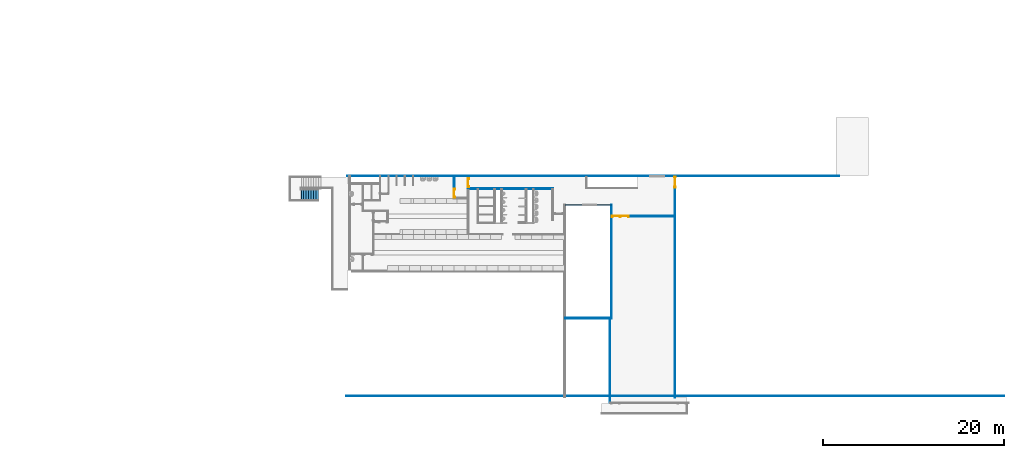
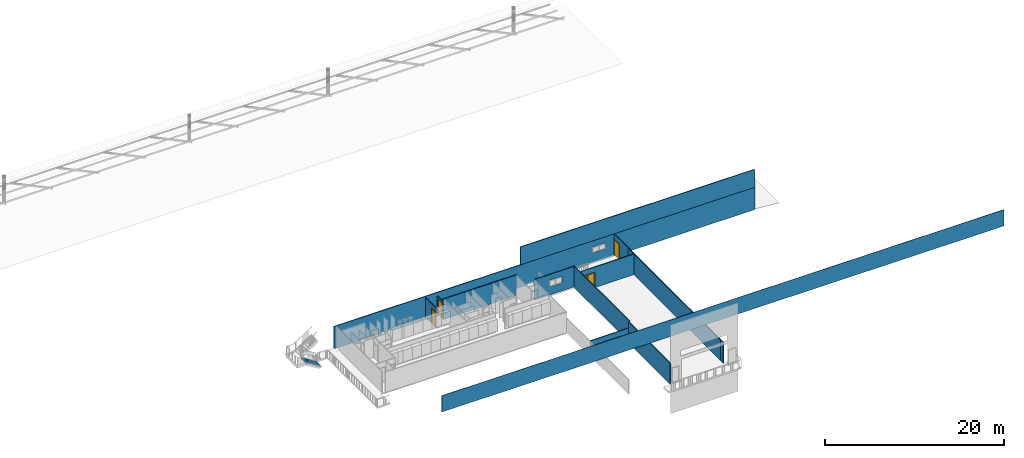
# One storey, part 7 of 14: 13 walls, 5 doors, 1 stair flight, 8 openings, 1 element without a shape of its own.
"""IFC2X3 building model written with IfcOpenShell, lengths in millimetres."""

import ifcopenshell
import ifcopenshell.guid

model = None  # the IFC model being written
_history = None  # IfcOwnerHistory: only IFC2X3 demands one
_inside = {}  # id of a spatial element -> (the spatial element, [elements in it])
_under = {}  # id of a project, library or spatial element -> (it, [spatial elements below it])
_declared = {}  # id of a project -> (the project, [libraries it declares])
_typed = {}  # id of a type object -> (the type object, [elements of that type])
_made_of = {}  # id of a material, layer set ... -> (it, [elements and type objects made of it])


def new_model(schema):
    """Start an empty IFC model of exactly this schema.

    Asked for "IFC4X3", IfcOpenShell would pick the latest addendum, in which some entities
    have other attributes; the version numbers below select the first issue.
    IFC2X3 requires an IfcOwnerHistory on every rooted entity: one is made here for all.
    """
    global model, _history
    if schema == "IFC4X3":
        model = ifcopenshell.file(schema_version=(4, 3, 0, 0))
    else:
        model = ifcopenshell.file(schema=schema)
    _inside.clear()
    _under.clear()
    _declared.clear()
    _typed.clear()
    _made_of.clear()
    _history = None
    if model.schema == "IFC2X3":
        org = make("IfcOrganization", Name="unknown")
        user = make(
            "IfcPersonAndOrganization",
            ThePerson=make("IfcPerson", FamilyName="unknown"),
            TheOrganization=org,
        )
        app = make(
            "IfcApplication",
            ApplicationDeveloper=org,
            Version="unknown",
            ApplicationFullName="unknown",
            ApplicationIdentifier="unknown",
        )
        _history = make(
            "IfcOwnerHistory",
            OwningUser=user,
            OwningApplication=app,
            ChangeAction="ADDED",
            CreationDate=0,
        )
    return model


def make(cls, **values):
    """One entity of the class cls with the attributes given. An attribute that is None is left unset."""
    return model.create_entity(
        cls, **{name: value for name, value in values.items() if value is not None}
    )


def entity(cls, *values):
    """Any entity or typed value of the class cls, its attributes in the order of the schema. None: left unset."""
    e = model.create_entity(cls)
    for i, value in enumerate(values):
        if value is not None:
            e[i] = value
    return e


def rooted(cls, **values):
    """An entity with a GlobalId (a new one), such as an element, a storey or a relation."""
    return make(cls, GlobalId=ifcopenshell.guid.new(), OwnerHistory=_history, **values)


def si_unit(unit_type, name, prefix=None):
    """IfcSIUnit, for example si_unit("LENGTHUNIT", "METRE", prefix="MILLI")."""
    return make("IfcSIUnit", UnitType=unit_type, Prefix=prefix, Name=name)


def converted_unit(unit_type, name, factor, base, dimensions=None, offset=None):
    """IfcConversionBasedUnit, such as the inch: factor (a typed value) times the base unit."""
    return make(
        "IfcConversionBasedUnit"
        if offset is None
        else "IfcConversionBasedUnitWithOffset",
        ConversionOffset=offset,
        Dimensions=None
        if dimensions is None
        else entity("IfcDimensionalExponents", *dimensions),
        UnitType=unit_type,
        Name=name,
        ConversionFactor=make(
            "IfcMeasureWithUnit", ValueComponent=factor, UnitComponent=base
        ),
    )


def derived_unit(unit_type, elements):
    """IfcDerivedUnit: a product of units, each with its exponent."""
    return make(
        "IfcDerivedUnit",
        Elements=[
            make("IfcDerivedUnitElement", Unit=unit, Exponent=power)
            for unit, power in elements
        ],
        UnitType=unit_type,
    )


def assignment(units):
    """IfcUnitAssignment: the units of a project."""
    return None if units is None else make("IfcUnitAssignment", Units=units)


def point(xyz):
    """IfcCartesianPoint."""
    return None if xyz is None else make("IfcCartesianPoint", Coordinates=xyz)


def direction(xyz):
    """IfcDirection."""
    return None if xyz is None else make("IfcDirection", DirectionRatios=xyz)


def frame(location, z_axis=None, x_axis=None):
    """IfcAxis2Placement3D, a coordinate frame: its origin and axes. An axis left out is left unset."""
    return make(
        "IfcAxis2Placement3D",
        Location=point(location),
        Axis=direction(z_axis),
        RefDirection=direction(x_axis),
    )


def frame_2d(location, x_axis=None):
    """IfcAxis2Placement2D, a coordinate frame in the plane: its origin and x axis."""
    return make(
        "IfcAxis2Placement2D", Location=point(location), RefDirection=direction(x_axis)
    )


def origin():
    """The frame at (0, 0, 0) with its axes left unset."""
    return frame((0.0, 0.0, 0.0))


def origin_2d_with_axis():
    """The frame at (0, 0) in the plane with the x axis (1, 0) written out."""
    return frame_2d((0.0, 0.0), x_axis=(1.0, 0.0))


def place(relative_to, where):
    """IfcLocalPlacement: puts the frame where relative to a parent placement (None: the world)."""
    return make(
        "IfcLocalPlacement", PlacementRelTo=relative_to, RelativePlacement=where
    )


def context(
    kind, dimensions, precision=None, world=None, true_north=None, identifier=None
):
    """IfcGeometricRepresentationContext, for example the 3D "Model" context."""
    return make(
        "IfcGeometricRepresentationContext",
        ContextIdentifier=identifier,
        ContextType=kind,
        CoordinateSpaceDimension=dimensions,
        Precision=precision,
        WorldCoordinateSystem=world,
        TrueNorth=true_north,
    )


def subcontext(parent, identifier, kind, view, scale=None):
    """IfcGeometricRepresentationSubContext, for example "Body" below "Model"."""
    return make(
        "IfcGeometricRepresentationSubContext",
        ContextIdentifier=identifier,
        ContextType=kind,
        ParentContext=parent,
        TargetScale=scale,
        TargetView=view,
    )


def project(units=None, contexts=None):
    """IfcProject with its units and contexts."""
    return rooted(
        "IfcProject",
        Name="project",
        RepresentationContexts=contexts,
        UnitsInContext=assignment(units),
    )


def spatial(cls, under=None, at=None, **own):
    """A site, building, storey or space (cls), placed at a placement, below another one or the project."""
    s = rooted(cls, ObjectPlacement=at, **own)
    if under is not None:
        _under.setdefault(under.id(), (under, []))[1].append(s)
    return s


def polyline(points):
    """IfcPolyline through the points."""
    return make("IfcPolyline", Points=[point(p) for p in points])


def profile(cls, at=None, kind="AREA", **sizes):
    """A parametric profile (cls). Its sizes go by their IFC names, for example OverallWidth=200.0."""
    return make(cls, ProfileType=kind, Position=at, **sizes)


def rectangle(**sizes):
    """IfcRectangleProfileDef."""
    return profile("IfcRectangleProfileDef", **sizes)


def outline(outer, holes=None, kind="AREA"):
    """IfcArbitraryClosedProfileDef: a profile drawn as a closed curve; with holes, ...WithVoids."""
    if holes is None:
        return make("IfcArbitraryClosedProfileDef", ProfileType=kind, OuterCurve=outer)
    return make(
        "IfcArbitraryProfileDefWithVoids",
        ProfileType=kind,
        OuterCurve=outer,
        InnerCurves=holes,
    )


def extrude(swept, where, along, depth):
    """IfcExtrudedAreaSolid: the profile swept, set in the frame where, extruded along a direction by depth."""
    return make(
        "IfcExtrudedAreaSolid",
        SweptArea=swept,
        Position=where,
        ExtrudedDirection=direction(along),
        Depth=depth,
    )


def shape(context_of_items, identifier, shape_type, items):
    """IfcShapeRepresentation: the items that make up one representation, for example the "Body"."""
    return make(
        "IfcShapeRepresentation",
        ContextOfItems=context_of_items,
        RepresentationIdentifier=identifier,
        RepresentationType=shape_type,
        Items=items,
    )


def source(mapping_origin, context_of_items, identifier, shape_type, items):
    """IfcRepresentationMap: a shape defined once, which mapped items show again and again."""
    return make(
        "IfcRepresentationMap",
        MappingOrigin=mapping_origin,
        MappedRepresentation=shape(context_of_items, identifier, shape_type, items),
    )


def transform(
    local_origin,
    x_axis=None,
    y_axis=None,
    z_axis=None,
    scale=None,
    scale2=None,
    scale3=None,
    uniform=True,
):
    """IfcCartesianTransformationOperator3D, or its non-uniform kind. x_axis, y_axis, z_axis: its Axis1, 2, 3."""
    if uniform:
        return make(
            "IfcCartesianTransformationOperator3D",
            Axis1=direction(x_axis),
            Axis2=direction(y_axis),
            LocalOrigin=point(local_origin),
            Scale=scale,
            Axis3=direction(z_axis),
        )
    return make(
        "IfcCartesianTransformationOperator3DnonUniform",
        Axis1=direction(x_axis),
        Axis2=direction(y_axis),
        LocalOrigin=point(local_origin),
        Scale=scale,
        Axis3=direction(z_axis),
        Scale2=scale2,
        Scale3=scale3,
    )


def mapped(mapping_source, mapping_target):
    """IfcMappedItem: shows the shape of a source again, moved by a transform."""
    return make(
        "IfcMappedItem", MappingSource=mapping_source, MappingTarget=mapping_target
    )


def material(Name=None, Category=None):
    """IfcMaterial."""
    return make("IfcMaterial", Name=Name, Category=Category)


def material_list(materials):
    """IfcMaterialList."""
    return make("IfcMaterialList", Materials=materials)


def layer(
    of_material, thickness, ventilated=None, Name=None, Category=None, Priority=None
):
    """IfcMaterialLayer: one layer of a wall or slab, of a material (None: an air gap)."""
    return make(
        "IfcMaterialLayer",
        Material=of_material,
        LayerThickness=thickness,
        IsVentilated=ventilated,
        Name=Name,
        Category=Category,
        Priority=Priority,
    )


def layer_set(layers, Name=None):
    """IfcMaterialLayerSet."""
    return make("IfcMaterialLayerSet", MaterialLayers=layers, LayerSetName=Name)


def layer_usage(for_layer_set, set_direction, sense, offset, extent=None):
    """IfcMaterialLayerSetUsage: how a layer set lies in its element."""
    return make(
        "IfcMaterialLayerSetUsage",
        ForLayerSet=for_layer_set,
        LayerSetDirection=set_direction,
        DirectionSense=sense,
        OffsetFromReferenceLine=offset,
        ReferenceExtent=extent,
    )


def made_of(thing, what):
    """Note that an element or type object is made of a material, layer set ...; save() writes the relation."""
    if what is not None:
        _made_of.setdefault(what.id(), (what, []))[1].append(thing)
    return thing


def type_object(cls, material=None, **own):
    """A type object (cls), such as IfcWallType, which elements share."""
    return made_of(rooted(cls, **own), material)


def type_shapes(of_type, sources):
    """Give a type object the sources (RepresentationMaps) that its elements show as mapped items."""
    of_type.RepresentationMaps = sources


def element(
    cls,
    number,
    at=None,
    inside=None,
    cuts=None,
    type_object=None,
    material=None,
    context=None,
    identifier="Body",
    shape_type=None,
    held_by="IfcProductDefinitionShape",
    body=None,
    shapes=None,
    **own,
):
    """One element of the class cls, such as IfcWall. Its Tag is "e" and its number.

    at: its placement. inside: the storey or other place that contains it. cuts: it is an
    opening in that element (IfcRelVoidsElement). A single representation is given by context,
    identifier, shape_type and body (its items); several are given by shapes. held_by: the class
    of the entity that holds the representations. save() writes the other relations.
    """
    e = rooted(cls, Tag="e%d" % number, ObjectPlacement=at, **own)
    if body is not None:
        shapes = [shape(context, identifier, shape_type, body)]
    if shapes is not None:
        e.Representation = make(held_by, Representations=shapes)
    if inside is not None:
        _inside.setdefault(inside.id(), (inside, []))[1].append(e)
    if cuts is not None:
        rooted(
            "IfcRelVoidsElement", RelatingBuildingElement=cuts, RelatedOpeningElement=e
        )
    if type_object is not None:
        _typed.setdefault(type_object.id(), (type_object, []))[1].append(e)
    return made_of(e, material)


def fill(opening, filler):
    """IfcRelFillsElement: the door or window that sits in an opening."""
    return rooted(
        "IfcRelFillsElement",
        RelatingOpeningElement=opening,
        RelatedBuildingElement=filler,
    )


def aggregate(whole, parts):
    """IfcRelAggregates: a whole, such as a stair, and the parts it consists of."""
    return rooted("IfcRelAggregates", RelatingObject=whole, RelatedObjects=parts)


def save(model, path):
    """Write the relations noted so far, then the file.

    IfcRelAggregates (storeys below a building ...), IfcRelContainedInSpatialStructure (elements
    in a storey), IfcRelDefinesByType, IfcRelAssociatesMaterial and IfcRelDeclares: one each for
    every whole, place, type object, material and project.
    """
    for whole, parts in _under.values():
        aggregate(whole, parts)
    for where, things in _inside.values():
        rooted(
            "IfcRelContainedInSpatialStructure",
            RelatedElements=things,
            RelatingStructure=where,
        )
    for kind, things in _typed.values():
        rooted("IfcRelDefinesByType", RelatedObjects=things, RelatingType=kind)
    for what, things in _made_of.values():
        rooted("IfcRelAssociatesMaterial", RelatedObjects=things, RelatingMaterial=what)
    for by, libraries in _declared.values():
        rooted("IfcRelDeclares", RelatingContext=by, RelatedDefinitions=libraries)
    model.write(path)


model = new_model("IFC2X3")

# Units and contexts
model_context = context("Model", 3, precision=0.01, world=origin(), true_north=direction((4.05803320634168e-15, -1.0)))
body_context = subcontext(model_context, "Body", "Model", "MODEL_VIEW")
ifc_project = project(units=[si_unit("LENGTHUNIT", "METRE", prefix="MILLI"), si_unit("AREAUNIT", "SQUARE_METRE"), si_unit("VOLUMEUNIT", "CUBIC_METRE"), converted_unit("PLANEANGLEUNIT", "DEGREE", entity("IfcRatioMeasure", 0.0174532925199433), si_unit("PLANEANGLEUNIT", "RADIAN"), dimensions=[0, 0, 0, 0, 0, 0, 0]), si_unit("MASSUNIT", "GRAM", prefix="KILO"), derived_unit("MASSDENSITYUNIT", [(si_unit("MASSUNIT", "GRAM", prefix="KILO"), 1), (si_unit("LENGTHUNIT", "METRE"), -3)]), si_unit("TIMEUNIT", "SECOND"), si_unit("FREQUENCYUNIT", "HERTZ"), si_unit("THERMODYNAMICTEMPERATUREUNIT", "DEGREE_CELSIUS"), derived_unit("THERMALTRANSMITTANCEUNIT", [(si_unit("MASSUNIT", "GRAM", prefix="KILO"), 1), (si_unit("THERMODYNAMICTEMPERATUREUNIT", "KELVIN"), -1), (si_unit("TIMEUNIT", "SECOND"), -3)]), derived_unit("VOLUMETRICFLOWRATEUNIT", [(si_unit("LENGTHUNIT", "METRE"), 3), (si_unit("TIMEUNIT", "SECOND"), -1)]), si_unit("ELECTRICCURRENTUNIT", "AMPERE"), si_unit("ELECTRICVOLTAGEUNIT", "VOLT"), si_unit("POWERUNIT", "WATT"), si_unit("FORCEUNIT", "NEWTON", prefix="KILO"), si_unit("ILLUMINANCEUNIT", "LUX"), si_unit("LUMINOUSFLUXUNIT", "LUMEN"), si_unit("LUMINOUSINTENSITYUNIT", "CANDELA"), derived_unit("USERDEFINED", [(si_unit("MASSUNIT", "GRAM", prefix="KILO"), -1), (si_unit("LENGTHUNIT", "METRE"), -2), (si_unit("TIMEUNIT", "SECOND"), 3), (si_unit("LUMINOUSFLUXUNIT", "LUMEN"), 1)]), derived_unit("LINEARVELOCITYUNIT", [(si_unit("LENGTHUNIT", "METRE"), 1), (si_unit("TIMEUNIT", "SECOND"), -1)]), si_unit("PRESSUREUNIT", "PASCAL"), derived_unit("USERDEFINED", [(si_unit("LENGTHUNIT", "METRE"), -2), (si_unit("MASSUNIT", "GRAM", prefix="KILO"), 1), (si_unit("TIMEUNIT", "SECOND"), -2)])], contexts=[model_context])

# Site, building, storey
site_placement = place(None, frame((927466.849349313, 583801.882853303, 0.0), z_axis=(0.0, 0.0, 1.0), x_axis=(-1.0, 0.0, 0.0)))
site = spatial("IfcSite", under=ifc_project, at=site_placement, Name="Surface", CompositionType="ELEMENT")
building_placement = place(site_placement, origin())
building = spatial("IfcBuilding", under=site, at=building_placement, CompositionType="ELEMENT")
storey_placement = place(building_placement, frame((0.0, 0.0, 48170.0)))
storey = spatial("IfcBuildingStorey", under=building, at=storey_placement, Name="First floor", CompositionType="ELEMENT", Elevation=48170.0)

# Wall, openings
ifc_material_1 = material(Name="Isopenal")
ifc_layer_1 = layer(ifc_material_1, 100.0)
ifc_layer_set_1 = layer_set([ifc_layer_1], Name="Basic Wall:Isopanel")
ifc_layer_usage_1 = layer_usage(ifc_layer_set_1, "AXIS2", "POSITIVE", -50.0)
wall_type_1 = type_object("IfcWallType", Name="Basic Wall:Isopanel", PredefinedType="STANDARD", material=ifc_layer_set_1)
wall_1_placement = place(storey_placement, frame((-80897.9372768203, 11958.2777512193, -200.0), z_axis=(0.0, 0.0, 1.0), x_axis=(-1.0, 0.0, 0.0)))
wall_1 = element("IfcWallStandardCase", 1, at=wall_1_placement, inside=storey, type_object=wall_type_1, material=ifc_layer_usage_1, Name="Basic Wall:Isopanel", ObjectType="Basic Wall:Isopanel", context=body_context, shape_type="SweptSolid", body=[
    extrude(rectangle(XDim=54350.0, YDim=99.9999999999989, at=frame_2d((27175.0, 5.22248910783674e-13), x_axis=(-1.0, 0.0))), origin(), (0.0, 0.0, 1.0), 3057.10660368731),
])
opening_1_placement = place(wall_1_placement, origin())
element("IfcOpeningElement", 2, at=opening_1_placement, cuts=wall_1, Name="Basic Wall:Isopanel", ObjectType="Opening", context=body_context, shape_type="SweptSolid", body=[
    extrude(rectangle(XDim=770.489127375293, YDim=1699.99999999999, at=frame_2d((1.73372427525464e-11, 0.0), x_axis=(0.0, 1.0))), frame((34200.0, -202.400000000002, 1814.75543631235), z_axis=(0.0, 1.0, 0.0), x_axis=(-1.0, 0.0, 0.0)), (0.0, 0.0, 1.0), 404.800000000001),
])
opening_2_placement = place(wall_1_placement, origin())
element("IfcOpeningElement", 3, at=opening_2_placement, cuts=wall_1, Name="Basic Wall:Isopanel", ObjectType="Opening", context=body_context, shape_type="SweptSolid", body=[
    extrude(rectangle(XDim=3000.0, YDim=99.9999999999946, at=frame_2d((8.66506866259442e-12, 4.32009983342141e-12), x_axis=(0.0, 1.0))), frame((54400.0, -3050.0, -2300.0), z_axis=(0.0, 1.0, 0.0), x_axis=(-1.0, 0.0, 0.0)), (0.0, 0.0, 1.0), 3000.0),
])

# Walls
ifc_layer_usage_2 = layer_usage(ifc_layer_set_1, "AXIS2", "NEGATIVE", 50.0)
wall_2_placement = place(storey_placement, frame((-110127.93727682, 27658.4151802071, -500.0)))
element("IfcWallStandardCase", 4, at=wall_2_placement, inside=storey, type_object=wall_type_1, material=ifc_layer_usage_2, Name="Basic Wall:Isopanel", ObjectType="Basic Wall:Isopanel", context=body_context, shape_type="SweptSolid", body=[
    extrude(rectangle(XDim=5179.99999999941, YDim=100.000000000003, at=frame_2d((2589.99999999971, 0.0), x_axis=(-1.0, 0.0))), origin(), (0.0, 0.0, 1.0), 2499.99999999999),
])
ifc_layer_usage_3 = layer_usage(ifc_layer_set_1, "AXIS2", "NEGATIVE", 50.0)
wall_3_placement = place(storey_placement, frame((-110077.93727682, 27608.4151802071, 0.0), z_axis=(0.0, 0.0, 1.0), x_axis=(0.0, -1.0, 0.0)))
element("IfcWallStandardCase", 5, at=wall_3_placement, inside=storey, type_object=wall_type_1, material=ifc_layer_usage_3, Name="Basic Wall:Isopanel", ObjectType="Basic Wall:Isopanel", context=body_context, shape_type="SweptSolid", body=[
    extrude(rectangle(XDim=12500.9448535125, YDim=100.000000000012, at=frame_2d((6250.47242675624, -4.04654088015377e-12), x_axis=(-1.0, 0.0))), origin(), (0.0, 0.0, 1.0), 2857.10660368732),
])

# Wall, opening
ifc_layer_usage_4 = layer_usage(ifc_layer_set_1, "AXIS2", "NEGATIVE", 50.0)
wall_4_placement = place(storey_placement, frame((-110027.93727682, 15157.4703266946, 0.0)))
wall_4 = element("IfcWallStandardCase", 6, at=wall_4_placement, inside=storey, type_object=wall_type_1, material=ifc_layer_usage_4, Name="Basic Wall:Isopanel", ObjectType="Basic Wall:Isopanel", context=body_context, shape_type="SweptSolid", body=[
    extrude(rectangle(XDim=5079.99999999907, YDim=99.9999999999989, at=frame_2d((2539.99999999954, 1.91846538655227e-13), x_axis=(-1.0, 0.0))), origin(), (0.0, 0.0, 1.0), 2800.0),
])
opening_3_placement = place(wall_4_placement, origin())
element("IfcOpeningElement", 7, at=opening_3_placement, cuts=wall_4, Name="Basic Wall:Isopanel", ObjectType="Opening", context=body_context, shape_type="SweptSolid", body=[
    extrude(rectangle(XDim=899.999999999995, YDim=1620.0, at=frame_2d((4.32009983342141e-12, 8.69704308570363e-12), x_axis=(1.0, 0.0))), frame((2370.0, -202.400000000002, 1550.0), z_axis=(0.0, 1.0, 0.0), x_axis=(0.0, 0.0, 1.0)), (0.0, 0.0, 1.0), 404.799999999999),
])

# Walls
ifc_layer_usage_5 = layer_usage(ifc_layer_set_1, "AXIS2", "POSITIVE", -50.0)
wall_5_placement = place(storey_placement, frame((-104947.937276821, 11958.2777512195, 2857.10660368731), z_axis=(0.0, 0.0, 1.0), x_axis=(-1.0, 0.0, 0.0)))
element("IfcWallStandardCase", 8, at=wall_5_placement, inside=storey, type_object=wall_type_1, material=ifc_layer_usage_5, Name="Basic Wall:Isopanel", ObjectType="Basic Wall:Isopanel", context=body_context, shape_type="SweptSolid", body=[
    extrude(rectangle(XDim=30299.9999999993, YDim=99.9999999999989, at=frame_2d((15149.9999999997, 5.96855898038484e-13), x_axis=(-1.0, 0.0))), origin(), (0.0, 0.0, 1.0), 2442.89339631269),
])
ifc_material_2 = material(Name="Cladding(2)")
ifc_layer_2 = layer(ifc_material_2, 38.0)
ifc_layer_set_2 = layer_set([ifc_layer_2], Name="Basic Wall:Cladding 3")
ifc_layer_usage_6 = layer_usage(ifc_layer_set_2, "AXIS2", "POSITIVE", -19.0)
wall_type_2 = type_object("IfcWallType", Name="Basic Wall:Cladding 3", PredefinedType="NOTDEFINED")
wall_6_placement = place(storey_placement, frame((-80800.5917798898, 36259.2777512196, 5919.43449238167), z_axis=(0.0, 0.0, 1.0), x_axis=(-1.0, 0.0, 0.0)))
element("IfcWallStandardCase", 9, at=wall_6_placement, inside=storey, type_object=wall_type_2, material=ifc_layer_usage_6, Name="Basic Wall:Cladding 3", ObjectType="Basic Wall:Cladding 3", context=body_context, shape_type="SweptSolid", body=[
    extrude(rectangle(XDim=38.0, YDim=72638.0984678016, at=frame_2d((0.0, 7.27595761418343e-12), x_axis=(1.0, 0.0))), frame((36319.0492339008, 0.0, 0.0), z_axis=(0.0, 0.0, 1.0), x_axis=(0.0, 1.0, 0.0)), (0.0, 0.0, 1.0), 2240.56550761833),
])
ifc_material_3 = material(Name="Partition")
ifc_layer_3 = layer(ifc_material_3, 100.0)
ifc_layer_set_3 = layer_set([ifc_layer_3], Name="Basic Wall:wall 90 Partition")
ifc_layer_usage_7 = layer_usage(ifc_layer_set_3, "AXIS2", "POSITIVE", -50.0)
wall_type_3 = type_object("IfcWallType", Name="Basic Wall:wall 90 Partition", PredefinedType="STANDARD", material=ifc_layer_set_3)
wall_7_placement = place(storey_placement, frame((-117091.96508372, 35869.2777512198, 0.0), z_axis=(0.0, 0.0, 1.0), x_axis=(0.0, -1.0, 0.0)))
element("IfcWallStandardCase", 10, at=wall_7_placement, inside=storey, type_object=wall_type_3, material=ifc_layer_usage_7, Name="Basic Wall:wall 90 Partition", ObjectType="Basic Wall:wall 90 Partition", context=body_context, shape_type="SweptSolid", body=[
    extrude(rectangle(XDim=20750.0, YDim=100.000000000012, at=frame_2d((10375.0, -2.37676545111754e-12), x_axis=(-1.0, 0.0))), origin(), (0.0, 0.0, 1.0), 2800.0),
])

# Wall, opening, door
ifc_layer_usage_8 = layer_usage(ifc_layer_set_3, "AXIS2", "POSITIVE", -50.0)
wall_8_placement = place(storey_placement, frame((-92724.9288686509, 12008.2777512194, 0.0), z_axis=(0.0, 0.0, 1.0), x_axis=(0.0, 1.0, 0.0)))
wall_8 = element("IfcWallStandardCase", 11, at=wall_8_placement, inside=storey, type_object=wall_type_3, material=ifc_layer_usage_8, Name="Basic Wall:wall 90 Partition", ObjectType="Basic Wall:wall 90 Partition", context=body_context, shape_type="SweptSolid", body=[
    extrude(rectangle(XDim=2360.99849805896, YDim=100.000000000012, at=frame_2d((1180.49924902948, 3.81561449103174e-12), x_axis=(-1.0, 0.0))), origin(), (0.0, 0.0, 1.0), 2657.10660368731),
])
opening_4_placement = place(wall_8_placement, frame((2260.99849805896, 50.0, 0.0)))
opening_4 = element("IfcOpeningElement", 12, at=opening_4_placement, cuts=wall_8, Name="M_Single-Flush:0813 x 2030mm:1", ObjectType="Opening", context=body_context, shape_type="SweptSolid", body=[
    extrude(rectangle(XDim=813.0, YDim=2030.0, at=frame_2d((1015.0, 406.5), x_axis=(0.0, -1.0))), frame((0.0, 0.0, 0.0), z_axis=(0.0, -1.0, 0.0), x_axis=(0.0, 0.0, 1.0)), (0.0, 0.0, 1.0), 100.0),
])
ifc_material_4 = material(Name="Door - Frame")
ifc_material_5 = material(Name="Door - Panel")
ifc_material_list_1 = material_list([ifc_material_4, ifc_material_5])
ifc_material_list_2 = material_list([ifc_material_4, ifc_material_5])
door_style_1 = type_object("IfcDoorStyle", Name="0813 x 2030mm", ConstructionType="NOTDEFINED", OperationType="SINGLE_SWING_LEFT", ParameterTakesPrecedence=False, Sizeable=False, material=ifc_material_list_2)
shared_shape_1 = source(origin(), body_context, "Body", "SweptSolid", [
    extrude(outline(polyline([(-482.5, -1072.0), (482.5, -1072.0), (482.5, 1034.0), (406.5, 1034.0), (406.5, -996.0), (-406.5, -996.0), (-406.5, 1034.0), (-482.5, 1034.0), (-482.5, -1072.0)])), frame((406.5, 125.0, 1034.0), z_axis=(0.0, -1.0, 0.0), x_axis=(-1.0, 0.0, 0.0)), (0.0, 0.0, 1.0), 24.9999999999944),
    extrude(outline(polyline([(-1072.0, -482.499999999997), (1034.0, -482.499999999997), (1034.0, -406.500000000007), (-996.0, -406.500000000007), (-996.0, 406.500000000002), (1034.0, 406.500000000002), (1034.0, 482.500000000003), (-1072.0, 482.500000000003), (-1072.0, -482.499999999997)])), frame((406.499999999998, 0.0, 1034.0), z_axis=(0.0, -1.0, 0.0), x_axis=(0.0, 0.0, -1.0)), (0.0, 0.0, 1.0), 25.0000000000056),
    extrude(rectangle(XDim=813.0, YDim=51.0, at=origin_2d_with_axis()), frame((406.500000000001, 74.4999999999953, 0.0)), (0.0, 0.0, 1.0), 2030.0),
])
type_shapes(door_style_1, [shared_shape_1])
door_1_placement = place(opening_4_placement, frame((0.0, 0.0, 0.0), z_axis=(0.0, 0.0, 1.0), x_axis=(-1.0, 0.0, 0.0)))
door_1 = element("IfcDoor", 13, at=door_1_placement, inside=storey, type_object=door_style_1, material=ifc_material_list_1, Name="M_Single-Flush:0813 x 2030mm", ObjectType="0813 x 2030mm", OverallHeight=2030.0, OverallWidth=812.999999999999, context=body_context, shape_type="MappedRepresentation", body=[
    mapped(shared_shape_1, transform((0.0, 0.0, 0.0), scale=1.0)),
])
fill(opening_4, door_1)

# Wall
ifc_layer_usage_9 = layer_usage(ifc_layer_set_3, "AXIS2", "POSITIVE", -50.0)
wall_9_placement = place(storey_placement, frame((-94214.6956533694, 13369.2679026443, 0.0), z_axis=(0.0, 0.0, 1.0), x_axis=(-1.0, 0.0, 0.0)))
element("IfcWallStandardCase", 14, at=wall_9_placement, inside=storey, type_object=wall_type_3, material=ifc_layer_usage_9, Name="Basic Wall:wall 90 Partition", ObjectType="Basic Wall:wall 90 Partition", context=body_context, shape_type="SweptSolid", body=[
    extrude(rectangle(XDim=9433.10050764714, YDim=99.9999999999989, at=frame_2d((4716.55025382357, 5.00932628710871e-13), x_axis=(-1.0, 0.0))), origin(), (0.0, 0.0, 1.0), 2800.0),
])

# Wall, opening, door
ifc_layer_usage_10 = layer_usage(ifc_layer_set_3, "AXIS2", "NEGATIVE", 50.0)
wall_10_placement = place(storey_placement, frame((-117091.965083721, 12008.2777512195, 0.0), z_axis=(0.0, 0.0, 1.0), x_axis=(0.0, 1.0, 0.0)))
wall_10 = element("IfcWallStandardCase", 15, at=wall_10_placement, inside=storey, type_object=wall_type_3, material=ifc_layer_usage_10, Name="Basic Wall:wall 90 Partition", ObjectType="Basic Wall:wall 90 Partition", context=body_context, shape_type="SweptSolid", body=[
    extrude(rectangle(XDim=24447.6921507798, YDim=100.000000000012, at=frame_2d((12223.8460753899, 2.45137243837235e-12), x_axis=(-1.0, 0.0))), origin(), (0.0, 0.0, 1.0), 2857.1066036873),
])
opening_5_placement = place(wall_10_placement, frame((100.0, -50.0, 0.0)))
opening_5 = element("IfcOpeningElement", 16, at=opening_5_placement, cuts=wall_10, Name="M_Single-Flush:1050 x 2134mm:1", ObjectType="Opening", context=body_context, shape_type="SweptSolid", body=[
    extrude(rectangle(XDim=1050.0, YDim=2134.0, at=frame_2d((1067.0, 525.0), x_axis=(0.0, -1.0))), frame((0.0, 0.0, 0.0), z_axis=(0.0, 1.0, 0.0), x_axis=(0.0, 0.0, 1.0)), (0.0, 0.0, 1.0), 100.0),
])
ifc_material_list_3 = material_list([ifc_material_4, ifc_material_5])
ifc_material_list_4 = material_list([ifc_material_4, ifc_material_5])
door_style_2 = type_object("IfcDoorStyle", Name="1050 x 2134mm", ConstructionType="NOTDEFINED", OperationType="SINGLE_SWING_LEFT", ParameterTakesPrecedence=False, Sizeable=False, material=ifc_material_list_4)
shared_shape_2 = source(origin(), body_context, "Body", "SweptSolid", [
    extrude(outline(polyline([(-601.0, -1124.0), (601.0, -1124.0), (601.0, 1086.0), (525.0, 1086.0), (525.0, -1048.0), (-525.0, -1048.0), (-525.0, 1086.0), (-601.0, 1086.0), (-601.0, -1124.0)])), frame((525.0, 125.0, 1086.0), z_axis=(0.0, -1.0, 0.0), x_axis=(-1.0, 0.0, 0.0)), (0.0, 0.0, 1.0), 24.9999999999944),
    extrude(outline(polyline([(-1124.0, -601.0), (1086.0, -601.0), (1086.0, -525.0), (-1048.0, -525.0), (-1048.0, 525.0), (1086.0, 525.0), (1086.0, 601.0), (-1124.0, 601.0), (-1124.0, -601.0)])), frame((525.0, 0.0, 1086.0), z_axis=(0.0, -1.0, 0.0), x_axis=(0.0, 0.0, -1.0)), (0.0, 0.0, 1.0), 25.0000000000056),
    extrude(rectangle(XDim=1050.0, YDim=51.0, at=origin_2d_with_axis()), frame((525.0, 74.4999999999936, 0.0)), (0.0, 0.0, 1.0), 2134.0),
])
type_shapes(door_style_2, [shared_shape_2])
door_2_placement = place(opening_5_placement, origin())
door_2 = element("IfcDoor", 17, at=door_2_placement, inside=storey, type_object=door_style_2, material=ifc_material_list_3, Name="M_Single-Flush:1050 x 2134mm", ObjectType="1050 x 2134mm", OverallHeight=2134.0, OverallWidth=1050.0, context=body_context, shape_type="MappedRepresentation", body=[
    mapped(shared_shape_2, transform((0.0, 0.0, 0.0), scale=1.0)),
])
fill(opening_5, door_2)

# Wall
ifc_layer_usage_11 = layer_usage(ifc_layer_set_3, "AXIS2", "NEGATIVE", 50.0)
wall_11_placement = place(storey_placement, frame((-109917.871944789, 37027.0854127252, 0.0), z_axis=(0.0, 0.0, 1.0), x_axis=(0.0, -1.0, 0.0)))
element("IfcWallStandardCase", 18, at=wall_11_placement, inside=storey, type_object=wall_type_3, material=ifc_layer_usage_11, Name="Basic Wall:wall 90 Partition", ObjectType="Basic Wall:wall 90 Partition", context=body_context, shape_type="SweptSolid", body=[
    extrude(rectangle(XDim=9318.67023251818, YDim=100.000000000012, at=frame_2d((4659.33511625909, 5.48894263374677e-12), x_axis=(-1.0, 0.0))), origin(), (0.0, 0.0, 1.0), 2859.35796848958),
])

# Wall, opening, door
ifc_layer_usage_12 = layer_usage(ifc_layer_set_3, "AXIS2", "POSITIVE", -50.0)
wall_12_placement = place(storey_placement, frame((-94264.6956533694, 12008.2777512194, 0.0), z_axis=(0.0, 0.0, 1.0), x_axis=(0.0, 1.0, 0.0)))
wall_12 = element("IfcWallStandardCase", 19, at=wall_12_placement, inside=storey, type_object=wall_type_3, material=ifc_layer_usage_12, Name="Basic Wall:wall 90 Partition", ObjectType="Basic Wall:wall 90 Partition", context=body_context, shape_type="SweptSolid", body=[
    extrude(rectangle(XDim=1310.99015142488, YDim=100.000000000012, at=frame_2d((655.495075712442, 2.1174173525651e-12), x_axis=(-1.0, 0.0))), origin(), (0.0, 0.0, 1.0), 2357.10660368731),
])
opening_6_placement = place(wall_12_placement, frame((1092.49507571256, 50.0, 0.0)))
opening_6 = element("IfcOpeningElement", 20, at=opening_6_placement, cuts=wall_12, Name="M_Single-Flush:813 x 2030mm:1", ObjectType="Opening", context=body_context, shape_type="SweptSolid", body=[
    extrude(rectangle(XDim=813.0, YDim=2030.0, at=frame_2d((1015.0, 406.5), x_axis=(0.0, 1.0))), frame((0.0, 0.0, 0.0), z_axis=(0.0, -1.0, 0.0), x_axis=(0.0, 0.0, 1.0)), (0.0, 0.0, 1.0), 100.0),
])
ifc_material_list_5 = material_list([ifc_material_4, ifc_material_5])
ifc_material_list_6 = material_list([ifc_material_4, ifc_material_5])
door_style_3 = type_object("IfcDoorStyle", Name="813 x 2030mm", ConstructionType="NOTDEFINED", OperationType="SINGLE_SWING_RIGHT", ParameterTakesPrecedence=False, Sizeable=False, material=ifc_material_list_6)
shared_shape_3 = source(origin(), body_context, "Body", "SweptSolid", [
    extrude(outline(polyline([(-482.5, -1072.0), (482.5, -1072.0), (482.5, 1034.0), (406.5, 1034.0), (406.5, -996.0), (-406.5, -996.0), (-406.5, 1034.0), (-482.5, 1034.0), (-482.5, -1072.0)])), frame((406.500000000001, 100.0, 1034.0), z_axis=(0.0, 1.0, 0.0), x_axis=(1.0, 0.0, 0.0)), (0.0, 0.0, 1.0), 24.9999999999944),
    extrude(outline(polyline([(-1072.0, -482.499999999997), (1034.0, -482.499999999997), (1034.0, -406.500000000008), (-996.0, -406.500000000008), (-996.0, 406.500000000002), (1034.0, 406.500000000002), (1034.0, 482.500000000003), (-1072.0, 482.500000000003), (-1072.0, -482.499999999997)])), frame((406.500000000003, -25.0, 1034.0), z_axis=(0.0, 1.0, 0.0), x_axis=(0.0, 0.0, -1.0)), (0.0, 0.0, 1.0), 25.0000000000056),
    extrude(rectangle(XDim=51.0, YDim=813.0, at=origin_2d_with_axis()), frame((406.500000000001, 74.5000000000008, 0.0), z_axis=(0.0, 0.0, 1.0), x_axis=(0.0, 1.0, 0.0)), (0.0, 0.0, 1.0), 2030.0),
])
type_shapes(door_style_3, [shared_shape_3])
door_3_placement = place(opening_6_placement, frame((0.0, 0.0, 0.0), z_axis=(0.0, 0.0, 1.0), x_axis=(-1.0, 0.0, 0.0)))
door_3 = element("IfcDoor", 21, at=door_3_placement, inside=storey, type_object=door_style_3, material=ifc_material_list_5, Name="M_Single-Flush:813 x 2030mm", ObjectType="813 x 2030mm", OverallHeight=2030.0, OverallWidth=812.999999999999, context=body_context, shape_type="MappedRepresentation", body=[
    mapped(shared_shape_3, transform((0.0, 0.0, 0.0), scale=1.0)),
])
fill(opening_6, door_3)

# Wall, openings, doors
ifc_layer_usage_13 = layer_usage(ifc_layer_set_3, "AXIS2", "NEGATIVE", 50.0)
wall_13_placement = place(storey_placement, frame((-117041.96508372, 16419.2777512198, 0.0)))
wall_13 = element("IfcWallStandardCase", 22, at=wall_13_placement, inside=storey, type_object=wall_type_3, material=ifc_layer_usage_13, Name="Basic Wall:wall 90 Partition", ObjectType="Basic Wall:wall 90 Partition", context=body_context, shape_type="SweptSolid", body=[
    extrude(rectangle(XDim=6914.02780690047, YDim=99.9999999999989, at=frame_2d((3457.01390345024, -3.76587649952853e-13), x_axis=(-1.0, 0.0))), origin(), (0.0, 0.0, 1.0), 2800.0),
])
opening_7_placement = place(wall_13_placement, frame((6842.8549921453, 50.0, 0.0)))
opening_7 = element("IfcOpeningElement", 23, at=opening_7_placement, cuts=wall_13, Name="M_Single-Flush:813 x 2030mm:1", ObjectType="Opening", context=body_context, shape_type="SweptSolid", body=[
    extrude(rectangle(XDim=813.0, YDim=2030.0, at=frame_2d((1015.0, 406.500000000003), x_axis=(0.0, -1.0))), frame((0.0, 0.0, 0.0), z_axis=(0.0, -1.0, 0.0), x_axis=(0.0, 0.0, 1.0)), (0.0, 0.0, 1.0), 100.0),
])
opening_8_placement = place(wall_13_placement, frame((5942.8549921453, 50.0, 0.0)))
opening_8 = element("IfcOpeningElement", 24, at=opening_8_placement, cuts=wall_13, Name="M_Single-Flush:813 x 2030mm:1", ObjectType="Opening", context=body_context, shape_type="SweptSolid", body=[
    extrude(rectangle(XDim=813.0, YDim=2030.0, at=frame_2d((1015.0, 406.500000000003), x_axis=(0.0, 1.0))), frame((0.0, 0.0, 0.0), z_axis=(0.0, -1.0, 0.0), x_axis=(0.0, 0.0, 1.0)), (0.0, 0.0, 1.0), 100.0),
])
ifc_material_list_7 = material_list([ifc_material_4, ifc_material_5])
ifc_material_list_8 = material_list([ifc_material_4, ifc_material_5])
door_style_4 = type_object("IfcDoorStyle", Name="813 x 2030mm", ConstructionType="NOTDEFINED", OperationType="SINGLE_SWING_LEFT", ParameterTakesPrecedence=False, Sizeable=False, material=ifc_material_list_8)
shared_shape_4 = source(origin(), body_context, "Body", "SweptSolid", [
    extrude(outline(polyline([(-482.5, -1072.0), (482.5, -1072.0), (482.5, 1034.0), (406.5, 1034.0), (406.5, -996.0), (-406.5, -996.0), (-406.5, 1034.0), (-482.5, 1034.0), (-482.5, -1072.0)])), frame((406.5, 125.0, 1034.0), z_axis=(0.0, -1.0, 0.0), x_axis=(-1.0, 0.0, 0.0)), (0.0, 0.0, 1.0), 24.9999999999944),
    extrude(outline(polyline([(-1072.0, -482.499999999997), (1034.0, -482.499999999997), (1034.0, -406.500000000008), (-996.0, -406.500000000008), (-996.0, 406.500000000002), (1034.0, 406.500000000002), (1034.0, 482.500000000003), (-1072.0, 482.500000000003), (-1072.0, -482.499999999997)])), frame((406.499999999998, 0.0, 1034.0), z_axis=(0.0, -1.0, 0.0), x_axis=(0.0, 0.0, -1.0)), (0.0, 0.0, 1.0), 25.0000000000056),
    extrude(rectangle(XDim=813.0, YDim=51.0, at=origin_2d_with_axis()), frame((406.500000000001, 74.4999999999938, 0.0)), (0.0, 0.0, 1.0), 2030.0),
])
type_shapes(door_style_4, [shared_shape_4])
door_4_placement = place(opening_7_placement, frame((0.0, 0.0, 0.0), z_axis=(0.0, 0.0, 1.0), x_axis=(-1.0, 0.0, 0.0)))
door_4 = element("IfcDoor", 25, at=door_4_placement, inside=storey, type_object=door_style_4, material=ifc_material_list_7, Name="M_Single-Flush:813 x 2030mm", ObjectType="813 x 2030mm", OverallHeight=2030.0, OverallWidth=813.000000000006, context=body_context, shape_type="MappedRepresentation", body=[
    mapped(shared_shape_4, transform((0.0, 0.0, 0.0), scale=1.0)),
])
fill(opening_7, door_4)
ifc_material_list_9 = material_list([ifc_material_4, ifc_material_5])
door_5_placement = place(opening_8_placement, frame((0.0, 0.0, 0.0), z_axis=(0.0, 0.0, 1.0), x_axis=(-1.0, 0.0, 0.0)))
door_5 = element("IfcDoor", 26, at=door_5_placement, inside=storey, type_object=door_style_3, material=ifc_material_list_9, Name="M_Single-Flush:813 x 2030mm", ObjectType="813 x 2030mm", OverallHeight=2030.0, OverallWidth=813.000000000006, context=body_context, shape_type="MappedRepresentation", body=[
    mapped(shared_shape_3, transform((0.0, 0.0, 0.0), scale=1.0)),
])
fill(opening_8, door_5)

# Stair, stair flight
stair_placement = place(storey_placement, origin())
stair = element("IfcStair", 27, at=stair_placement, inside=storey, Name="Assembled Stair:Stair", ObjectType="Assembled Stair:170mm max riser 270mm going 1500", ShapeType="NOTDEFINED")
stair_flight_placement = place(stair_placement, origin())
stair_flight = element("IfcStairFlight", 28, at=stair_flight_placement, Name="Assembled Stair:Stair:634342 Run 2", ObjectType="Assembled Stair:170mm max riser 270mm going 1500", NumberOfRiser=8, NumberOfTreads=7, RiserHeight=0.551394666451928, TreadLength=0.885826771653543, context=body_context, shape_type="SweptSolid", body=[
    extrude(rectangle(XDim=1200.0, YDim=12.4999999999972, at=frame_2d((0.0, 4.33164615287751e-12), x_axis=(1.0, 0.0))), frame((-77692.3413038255, 14047.4703266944, 0.0), z_axis=(0.0, 0.0, 1.0), x_axis=(0.0, 1.0, 0.0)), (0.0, 0.0, 1.0), 118.06509433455),
    extrude(rectangle(XDim=269.999999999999, YDim=1200.0, at=frame_2d((4.32009983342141e-12, 0.0), x_axis=(1.0, 0.0))), frame((-77563.5913038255, 14047.4703266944, 118.06509433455), z_axis=(0.0, 0.0, 1.0), x_axis=(-1.0, 0.0, 0.0)), (0.0, 0.0, 1.0), 49.9999999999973),
    extrude(rectangle(XDim=1200.0, YDim=12.4999999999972, at=frame_2d((0.0, 4.33164615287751e-12), x_axis=(1.0, 0.0))), frame((-77422.3413038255, 14047.4703266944, 118.06509433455), z_axis=(0.0, 0.0, 1.0), x_axis=(0.0, 1.0, 0.0)), (0.0, 0.0, 1.0), 168.065094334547),
    extrude(rectangle(XDim=270.000000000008, YDim=1200.0, at=frame_2d((-8.65441052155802e-12, 1.08002495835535e-12), x_axis=(1.0, 0.0))), frame((-77293.5913038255, 14047.4703266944, 286.130188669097), z_axis=(0.0, 0.0, 1.0), x_axis=(-1.0, 0.0, 0.0)), (0.0, 0.0, 1.0), 49.9999999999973),
    extrude(rectangle(XDim=1200.0, YDim=12.4999999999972, at=frame_2d((0.0, -4.33164615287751e-12), x_axis=(1.0, 0.0))), frame((-77152.3413038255, 14047.4703266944, 286.130188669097), z_axis=(0.0, 0.0, 1.0), x_axis=(0.0, 1.0, 0.0)), (0.0, 0.0, 1.0), 168.065094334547),
    extrude(rectangle(XDim=270.000000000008, YDim=1200.0, at=frame_2d((0.0, 1.08002495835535e-12), x_axis=(1.0, 0.0))), frame((-77023.5913038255, 14047.4703266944, 454.195283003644), z_axis=(0.0, 0.0, 1.0), x_axis=(-1.0, 0.0, 0.0)), (0.0, 0.0, 1.0), 49.9999999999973),
    extrude(rectangle(XDim=1200.0, YDim=12.4999999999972, at=frame_2d((0.0, 4.33164615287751e-12), x_axis=(1.0, 0.0))), frame((-76882.3413038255, 14047.4703266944, 454.195283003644), z_axis=(0.0, 0.0, 1.0), x_axis=(0.0, 1.0, 0.0)), (0.0, 0.0, 1.0), 168.065094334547),
    extrude(rectangle(XDim=270.000000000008, YDim=1200.0, at=frame_2d((0.0, 1.08002495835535e-12), x_axis=(1.0, 0.0))), frame((-76753.5913038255, 14047.4703266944, 622.260377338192), z_axis=(0.0, 0.0, 1.0), x_axis=(-1.0, 0.0, 0.0)), (0.0, 0.0, 1.0), 49.9999999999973),
    extrude(rectangle(XDim=1200.0, YDim=12.4999999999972, at=frame_2d((0.0, -4.33164615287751e-12), x_axis=(1.0, 0.0))), frame((-76612.3413038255, 14047.4703266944, 622.260377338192), z_axis=(0.0, 0.0, 1.0), x_axis=(0.0, 1.0, 0.0)), (0.0, 0.0, 1.0), 168.065094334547),
    extrude(rectangle(XDim=270.000000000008, YDim=1200.0, at=frame_2d((0.0, 1.08002495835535e-12), x_axis=(1.0, 0.0))), frame((-76483.5913038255, 14047.4703266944, 790.325471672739), z_axis=(0.0, 0.0, 1.0), x_axis=(-1.0, 0.0, 0.0)), (0.0, 0.0, 1.0), 49.9999999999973),
    extrude(rectangle(XDim=1200.0, YDim=12.4999999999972, at=frame_2d((0.0, 4.33164615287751e-12), x_axis=(1.0, 0.0))), frame((-76342.3413038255, 14047.4703266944, 790.325471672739), z_axis=(0.0, 0.0, 1.0), x_axis=(0.0, 1.0, 0.0)), (0.0, 0.0, 1.0), 168.065094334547),
    extrude(rectangle(XDim=270.000000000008, YDim=1200.0, at=frame_2d((0.0, 1.08002495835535e-12), x_axis=(1.0, 0.0))), frame((-76213.5913038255, 14047.4703266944, 958.390566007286), z_axis=(0.0, 0.0, 1.0), x_axis=(-1.0, 0.0, 0.0)), (0.0, 0.0, 1.0), 49.9999999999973),
    extrude(rectangle(XDim=1200.0, YDim=12.4999999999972, at=frame_2d((0.0, 4.33164615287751e-12), x_axis=(1.0, 0.0))), frame((-76072.3413038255, 14047.4703266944, 958.390566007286), z_axis=(0.0, 0.0, 1.0), x_axis=(0.0, 1.0, 0.0)), (0.0, 0.0, 1.0), 168.065094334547),
    extrude(rectangle(XDim=1200.0, YDim=12.4999999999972, at=frame_2d((-2.1600499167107e-12, 4.33164615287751e-12), x_axis=(1.0, 0.0))), frame((-75802.3413038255, 14047.4703266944, 1126.45566034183), z_axis=(0.0, 0.0, 1.0), x_axis=(0.0, 1.0, 0.0)), (0.0, 0.0, 1.0), 168.065094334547),
    extrude(rectangle(XDim=270.000000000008, YDim=1200.0, at=frame_2d((-8.65441052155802e-12, 1.08002495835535e-12), x_axis=(1.0, 0.0))), frame((-75943.5913038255, 14047.4703266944, 1126.45566034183), z_axis=(0.0, 0.0, 1.0), x_axis=(-1.0, 0.0, 0.0)), (0.0, 0.0, 1.0), 49.9999999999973),
])
aggregate(stair, [stair_flight])

save(model, "model.ifc")
